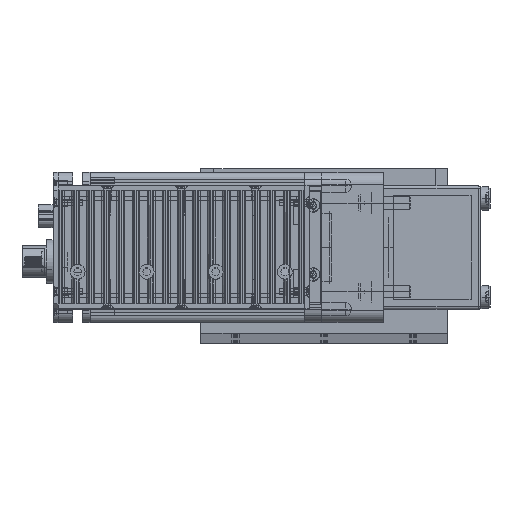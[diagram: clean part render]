
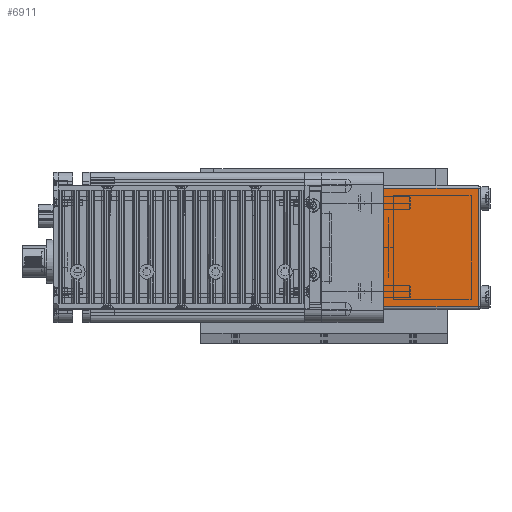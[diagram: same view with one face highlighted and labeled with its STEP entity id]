
A CAD part, top view. The second image highlights one B-rep face of the part: STEP entity #6911.
In plain terms, the highlighted planar face has unit normal (0, 0, 1) as drawn and (1, 0, 0) by its records, which use the part's own axes.
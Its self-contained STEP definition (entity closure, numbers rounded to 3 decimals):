
#1393 = EDGE_CURVE ( 'NONE', #4429, #4785, #13086, .T. ) ;
#2188 = VERTEX_POINT ( 'NONE', #14649 ) ;
#2251 = VERTEX_POINT ( 'NONE', #14698 ) ;
#2260 = EDGE_CURVE ( 'NONE', #2251, #2188, #14784, .T. ) ;
#4429 = VERTEX_POINT ( 'NONE', #19287 ) ;
#4785 = VERTEX_POINT ( 'NONE', #19793 ) ;
#6171 = EDGE_LOOP ( 'NONE', ( #6345, #6965, #6664, #7453 ) ) ;
#6345 = ORIENTED_EDGE ( 'NONE', *, *, #1393, .F. ) ;
#6664 = ORIENTED_EDGE ( 'NONE', *, *, #2260, .F. ) ;
#6684 = EDGE_CURVE ( 'NONE', #4429, #2188, #23207, .T. ) ;
#6875 = EDGE_CURVE ( 'NONE', #4785, #2251, #23464, .T. ) ;
#6911 = ADVANCED_FACE ( 'NONE', ( #23529 ), #23541, .F. ) ;
#6965 = ORIENTED_EDGE ( 'NONE', *, *, #6684, .T. ) ;
#7453 = ORIENTED_EDGE ( 'NONE', *, *, #6875, .F. ) ;
#13083 = CARTESIAN_POINT ( 'NONE',  ( 62., -24., 39.5 ) ) ;
#13086 = LINE ( 'NONE', #13083, #13102 ) ;
#13101 = DIRECTION ( 'NONE',  ( 0., 0., 1. ) ) ;
#13102 = VECTOR ( 'NONE', #13101, 1000. ) ;
#14649 = CARTESIAN_POINT ( 'NONE',  ( 62., 24., 0. ) ) ;
#14698 = CARTESIAN_POINT ( 'NONE',  ( 62., 24., 38.5 ) ) ;
#14781 = DIRECTION ( 'NONE',  ( 0., 0., -1. ) ) ;
#14782 = VECTOR ( 'NONE', #14781, 1000. ) ;
#14783 = CARTESIAN_POINT ( 'NONE',  ( 62., 24., 39.5 ) ) ;
#14784 = LINE ( 'NONE', #14783, #14782 ) ;
#19287 = CARTESIAN_POINT ( 'NONE',  ( 62., -24., 0. ) ) ;
#19793 = CARTESIAN_POINT ( 'NONE',  ( 62., -24., 38.5 ) ) ;
#23200 = DIRECTION ( 'NONE',  ( 0., 1., 0. ) ) ;
#23201 = VECTOR ( 'NONE', #23200, 1000. ) ;
#23205 = CARTESIAN_POINT ( 'NONE',  ( 62., -25., 0. ) ) ;
#23207 = LINE ( 'NONE', #23205, #23201 ) ;
#23461 = DIRECTION ( 'NONE',  ( 0., 1., 0. ) ) ;
#23462 = VECTOR ( 'NONE', #23461, 1000. ) ;
#23463 = CARTESIAN_POINT ( 'NONE',  ( 62., -25., 38.5 ) ) ;
#23464 = LINE ( 'NONE', #23463, #23462 ) ;
#23525 = CARTESIAN_POINT ( 'NONE',  ( 62., 25., 39.5 ) ) ;
#23529 = FACE_OUTER_BOUND ( 'NONE', #6171, .T. ) ;
#23532 = AXIS2_PLACEMENT_3D ( 'NONE', #23525, #23586, #23585 ) ;
#23541 = PLANE ( 'NONE',  #23532 ) ;
#23585 = DIRECTION ( 'NONE',  ( 0., -1., 0. ) ) ;
#23586 = DIRECTION ( 'NONE',  ( -1., 0., 0. ) ) ;
